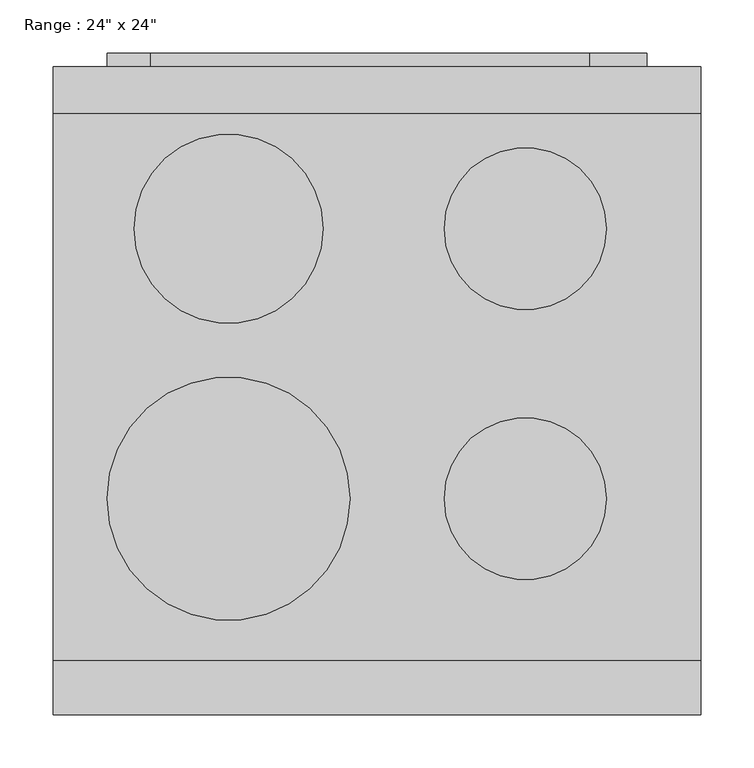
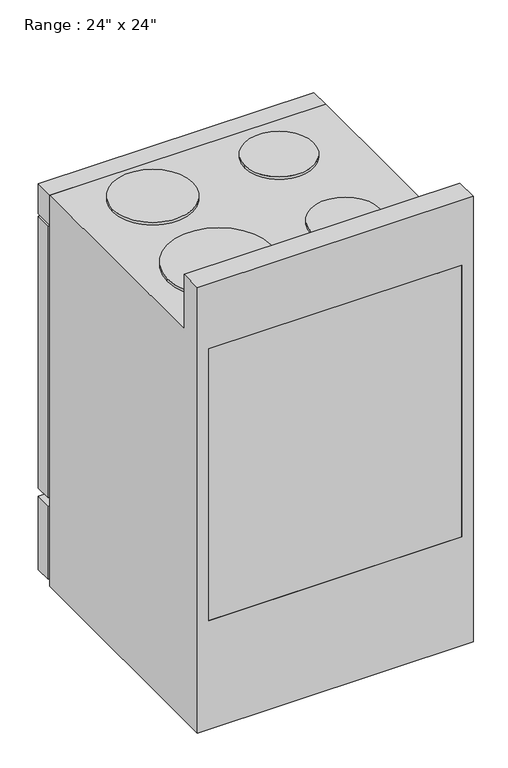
"""IFC4 building model written with IfcOpenShell, lengths in millimetres: proxy geometry."""

from ifc_helpers import new_model, si_unit, point, frame, frame_2d, origin, place, context, project, spatial, polyline, circle_curve, trimmed, segment, composite_curve, outline, extrude, faceted_brep, source, transform, mapped, element, save


def proxy_6e71702f(model_context):
    return source(origin(), model_context, "Body", "SolidModel", [
        faceted_brep([(609.6, -609.6, 0.0), (609.6, -609.6, 1041.4), (0.0, -609.6, 1041.4), (0.0, -609.6, 0.0), (584.2, -609.6, 889.2220355), (584.2, -609.6, 254.0), (25.4, -609.6, 254.0), (25.4, -609.6, 889.2220355), (609.6, -44.45, 914.4), (609.6, -44.45, 0.0), (0.0, -44.45, 0.0), (0.0, -44.45, 914.4), (584.2, -44.45, 889.2220355), (25.4, -44.45, 889.2220355), (25.4, -44.45, 254.0), (584.2, -44.45, 254.0), (609.6, -558.8, 914.4), (609.6, -558.8, 1041.4), (0.0, -558.8, 1041.4), (0.0, -558.8, 914.4)], [[[0, 1, 2, 3], [4, 5, 6, 7]], [[8, 9, 10, 11], [12, 13, 14, 15]], [[0, 9, 8, 16, 17, 1]], [[3, 10, 9, 0]], [[2, 18, 19, 11, 10, 3]], [[11, 19, 16, 8]], [[7, 13, 12, 4]], [[6, 14, 13, 7]], [[5, 15, 14, 6]], [[4, 12, 15, 5]], [[17, 18, 2, 1]], [[16, 19, 18, 17]]]),
        extrude(outline(polyline([(504.825, 12.7), (504.825, 0.0), (91.687309, 0.0), (91.687309, 12.7), (504.825, 12.7)])), frame((0.0, 0.0, 791.2768639), z_axis=(0.0, 0.0, 1.0), x_axis=(1.0, 0.0, 0.0)), (0.0, 0.0, 1.0), 19.05),
        extrude(outline(polyline([(520.7, -12.7), (520.7, -19.05), (76.2, -19.05), (76.2, -12.7), (520.7, -12.7)])), frame((0.0, 0.0, 330.2), z_axis=(0.0, 0.0, 1.0), x_axis=(1.0, 0.0, 0.0)), (0.0, 0.0, 1.0), 406.4),
        extrude(outline(polyline([(609.6, 0.0), (609.6, -44.45), (0.0, -44.45), (0.0, 0.0), (609.6, 0.0)])), frame((0.0, 0.0, 844.7720355), z_axis=(0.0, 0.0, 1.0), x_axis=(1.0, 0.0, 0.0)), (0.0, 0.0, 1.0), 69.6279645),
        extrude(outline(polyline([(762.0, 558.8), (762.0, 50.8), (304.8, 50.8), (304.8, 558.8), (762.0, 558.8)]), holes=[polyline([(736.6, 533.4), (330.2, 533.4), (330.2, 76.2), (736.6, 76.2), (736.6, 533.4)])]), frame((0.0, -25.4, 0.0), z_axis=(0.0, 1.0, 0.0), x_axis=(0.0, 0.0, 1.0)), (0.0, 0.0, 1.0), 38.1),
        extrude(outline(composite_curve([segment(trimmed(circle_curve(frame_2d((165.1, -406.4)), 114.3), [point((50.8, -406.4))], [point((279.4, -406.4))], False, "CARTESIAN"), True, "CONTINUOUS"), segment(trimmed(circle_curve(frame_2d((165.1, -406.4)), 114.3), [point((279.4, -406.4))], [point((50.8, -406.4))], False, "CARTESIAN"), True, "CONTINUOUS")], self_intersect=False)), frame((0.0, 0.0, 914.4), z_axis=(0.0, 0.0, 1.0), x_axis=(1.0, 0.0, 0.0)), (0.0, 0.0, 1.0), 6.35),
        extrude(outline(composite_curve([segment(trimmed(circle_curve(frame_2d((444.5, -406.4)), 76.2), [point((368.3, -406.4))], [point((520.7, -406.4))], False, "CARTESIAN"), True, "CONTINUOUS"), segment(trimmed(circle_curve(frame_2d((444.5, -406.4)), 76.2), [point((520.7, -406.4))], [point((368.3, -406.4))], False, "CARTESIAN"), True, "CONTINUOUS")], self_intersect=False)), frame((0.0, 0.0, 914.4), z_axis=(0.0, 0.0, 1.0), x_axis=(1.0, 0.0, 0.0)), (0.0, 0.0, 1.0), 6.35),
        extrude(outline(composite_curve([segment(trimmed(circle_curve(frame_2d((444.5, -152.4)), 76.2), [point((368.3, -152.4))], [point((520.7, -152.4))], False, "CARTESIAN"), True, "CONTINUOUS"), segment(trimmed(circle_curve(frame_2d((444.5, -152.4)), 76.2), [point((520.7, -152.4))], [point((368.3, -152.4))], False, "CARTESIAN"), True, "CONTINUOUS")], self_intersect=False)), frame((0.0, 0.0, 914.4), z_axis=(0.0, 0.0, 1.0), x_axis=(1.0, 0.0, 0.0)), (0.0, 0.0, 1.0), 6.35),
        extrude(outline(composite_curve([segment(trimmed(circle_curve(frame_2d((165.1, -152.4)), 88.9), [point((76.2, -152.4))], [point((254.0, -152.4))], False, "CARTESIAN"), True, "CONTINUOUS"), segment(trimmed(circle_curve(frame_2d((165.1, -152.4)), 88.9), [point((254.0, -152.4))], [point((76.2, -152.4))], False, "CARTESIAN"), True, "CONTINUOUS")], self_intersect=False)), frame((0.0, 0.0, 914.4), z_axis=(0.0, 0.0, 1.0), x_axis=(1.0, 0.0, 0.0)), (0.0, 0.0, 1.0), 6.35),
        extrude(outline(polyline([(25.4, -609.6), (25.4, -584.2), (584.2, -584.2), (584.2, -609.6), (25.4, -609.6)])), frame((0.0, 0.0, 254.0), z_axis=(0.0, 0.0, 1.0), x_axis=(1.0, 0.0, 0.0)), (0.0, 0.0, 1.0), 635.2220355),
        extrude(outline(polyline([(838.4220355, 609.6), (838.4220355, 0.0), (203.2, 0.0), (203.2, 609.6), (838.4220355, 609.6)]), holes=[polyline([(762.0, 558.8), (304.8, 558.8), (304.8, 50.8), (762.0, 50.8), (762.0, 558.8)])]), frame((0.0, -38.1, 0.0), z_axis=(0.0, 1.0, 0.0), x_axis=(0.0, 0.0, 1.0)), (0.0, 0.0, 1.0), 38.1),
        extrude(outline(polyline([(609.6, 0.0), (609.6, -38.1), (0.0, -38.1), (0.0, 0.0), (609.6, 0.0)])), frame((0.0, 0.0, 12.7), z_axis=(0.0, 0.0, 1.0), x_axis=(1.0, 0.0, 0.0)), (0.0, 0.0, 1.0), 171.45),
    ])


if __name__ == "__main__":
    model = new_model("IFC4")
    model_context = context("Model", 3, world=origin())
    ifc_project = project(units=[si_unit("LENGTHUNIT", "METRE", prefix="MILLI")], contexts=[model_context])
    site = spatial("IfcSite", under=ifc_project)
    building = spatial("IfcBuilding", under=site)
    placement = place(None, origin())
    proxy_shape = proxy_6e71702f(model_context)
    element("IfcBuildingElementProxy", 1, Name="Range : 24\" x 24\"", ObjectType="Range : 24\" x 24\"", at=placement, inside=building, context=model_context, shape_type="MappedRepresentation", body=[
        mapped(proxy_shape, transform((0.0, 0.0, 0.0), x_axis=(1.0, 0.0, 0.0), y_axis=(0.0, 1.0, 0.0), z_axis=(0.0, 0.0, 1.0))),
    ])
    save(model, "model.ifc")
